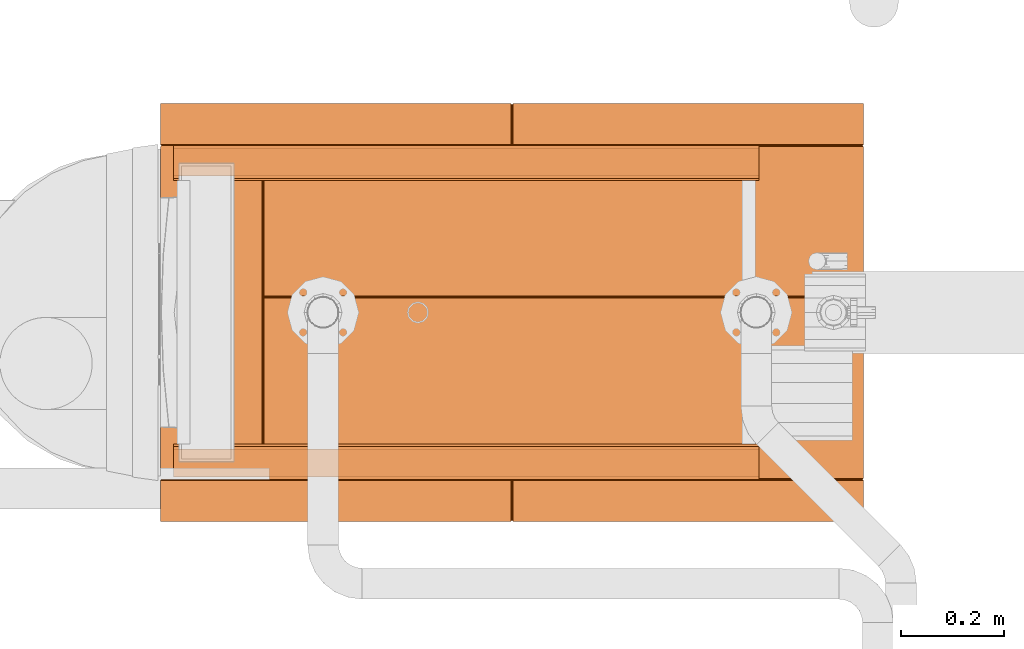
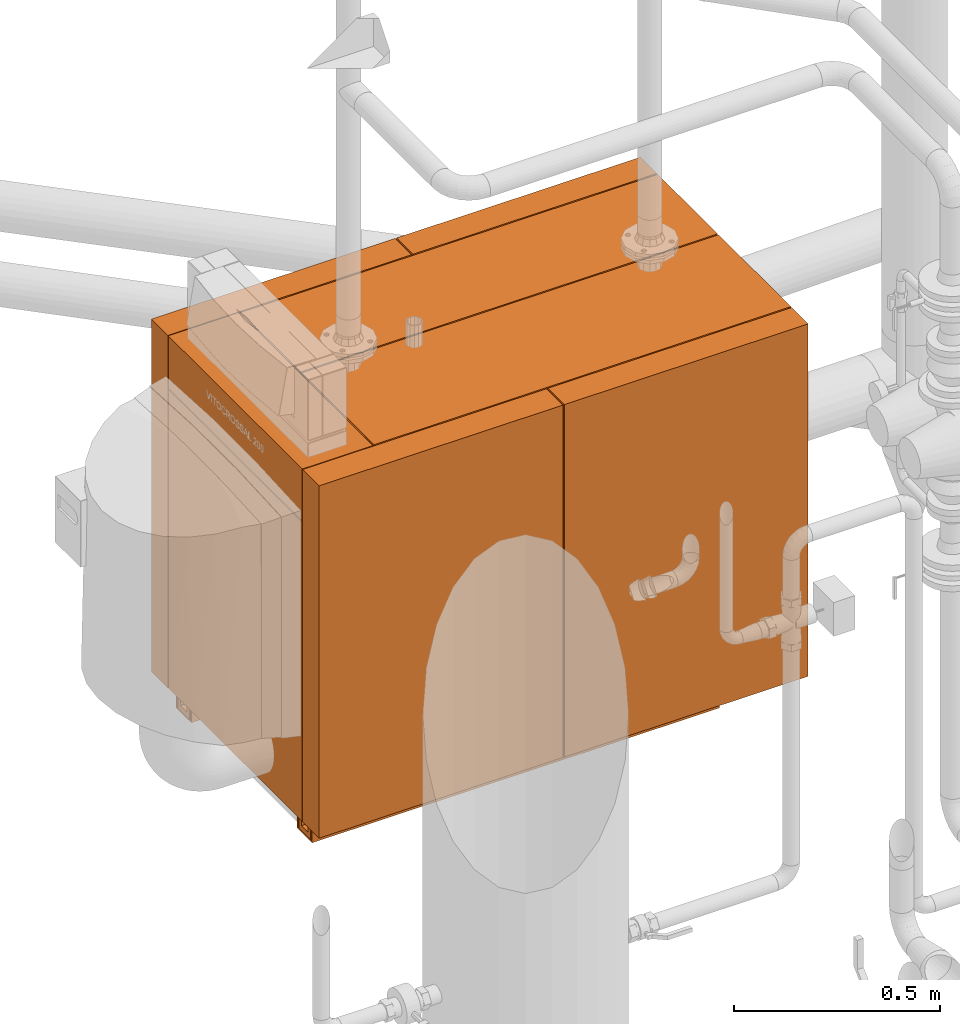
# One storey, part 364 of 374: 11 proxies.
"""IFC2X3 building model written with IfcOpenShell, lengths in metres."""

from ifc_helpers import new_model, si_unit, direction, origin, place, context, subcontext, project, spatial, open_shell, surface_model, source, transform, mapped, element, save


model = new_model("IFC2X3")

# Units and contexts
model_context = context("Model", 3, precision=1e-05, world=origin(), true_north=direction((-0.4480736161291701, 0.8939966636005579)))
body_context = subcontext(model_context, "Body", "Model", "MODEL_VIEW")
ifc_project = project(units=[si_unit("LENGTHUNIT", "METRE"), si_unit("AREAUNIT", "SQUARE_METRE"), si_unit("VOLUMEUNIT", "CUBIC_METRE"), si_unit("PLANEANGLEUNIT", "RADIAN"), si_unit("THERMODYNAMICTEMPERATUREUNIT", "KELVIN"), si_unit("MASSUNIT", "GRAM", prefix="KILO"), si_unit("TIMEUNIT", "SECOND")], contexts=[model_context])

# Site, building, storey
site_placement = place(None, origin())
site = spatial("IfcSite", under=ifc_project, at=site_placement, Name="Site 1", CompositionType="ELEMENT")
building_placement = place(site_placement, origin())
building = spatial("IfcBuilding", under=site, at=building_placement, Name="Undefined", CompositionType="ELEMENT")
storey_placement = place(building_placement, origin())
storey = spatial("IfcBuildingStorey", under=building, at=storey_placement, Name="Rez de chauss\x8ee", CompositionType="ELEMENT", Elevation=0.0)

# Proxies
shared_shape_1 = source(origin(), body_context, "Body", "SurfaceModel", [
    surface_model("IfcFaceBasedSurfaceModel", [(0.01364271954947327, 0.007508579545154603, 0.0), (0.0, 0.0, 0.0), (0.04474933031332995, 0.0, 0.0), (0.05346472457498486, -0.012905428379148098, 0.0), (0.05413505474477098, 0.03888326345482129, 0.0), (0.06883387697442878, 0.050766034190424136, 0.0), (0.01536915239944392, 0.06367146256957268, 0.0), (0.023028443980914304, 0.04639184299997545, 0.0), (0.04474933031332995, 0.0, -1.142000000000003), (0.01364271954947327, 0.007508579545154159, -1.142000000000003), (0.05413505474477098, 0.03888326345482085, -1.142000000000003), (0.0, 0.0, -1.142000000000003), (0.05346472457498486, -0.012905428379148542, -1.142000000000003), (0.01536915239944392, 0.06367146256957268, -1.142000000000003), (0.023028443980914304, 0.04639184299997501, -1.142000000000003), (0.06883387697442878, 0.050766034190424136, -1.142000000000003)], [open_shell([[[0, 1, 2]], [[2, 1, 3]], [[2, 3, 4]], [[4, 3, 5]], [[4, 5, 6]], [[0, 7, 1]], [[1, 7, 6]], [[7, 4, 6]], [[2, 8, 0]], [[0, 8, 9]], [[4, 10, 2]], [[2, 10, 8]], [[1, 11, 3]], [[3, 11, 12]], [[6, 13, 1]], [[1, 13, 11]], [[7, 14, 4]], [[4, 14, 10]], [[0, 9, 7]], [[7, 9, 14]], [[3, 12, 5]], [[5, 12, 15]], [[5, 15, 6]], [[6, 15, 13]], [[13, 15, 10]], [[10, 15, 12]], [[10, 12, 8]], [[8, 12, 11]], [[8, 11, 9]], [[9, 11, 14]], [[10, 14, 13]], [[13, 14, 11]]])]),
])
proxy_1_placement = place(storey_placement, origin())
element("IfcBuildingElementProxy", 1, at=proxy_1_placement, inside=storey, Name="BuildingElementProxy 21", context=body_context, shape_type="MappedRepresentation", body=[
    mapped(shared_shape_1, transform((54.76709950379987, 13.377212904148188, 0.18950012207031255), x_axis=(0.0, -0.9720815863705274, -0.23464311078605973), y_axis=(0.0, 0.23464311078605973, -0.9720815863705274), z_axis=(1.0, 0.0, 0.0))),
])
shared_shape_2 = source(origin(), body_context, "Body", "SurfaceModel", [
    surface_model("IfcFaceBasedSurfaceModel", [(0.0, 0.0, 0.0), (0.055000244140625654, 0.0, 0.0), (0.04349999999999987, 0.015000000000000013, 0.0), (0.055000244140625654, 0.0655001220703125, 0.0), (0.04349999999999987, 0.05499999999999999, 0.0), (0.0, 0.0655001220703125, 0.0), (0.011499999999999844, 0.05499999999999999, 0.0), (0.011499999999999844, 0.015000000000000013, 0.0), (0.04349999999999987, 0.015000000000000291, -1.142000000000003), (0.011499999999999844, 0.015000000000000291, -1.142000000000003), (0.04349999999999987, 0.0550000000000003, -1.142000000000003), (0.0, 0.0, -1.142000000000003), (0.055000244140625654, 2.91433544e-16, -1.142000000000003), (0.0, 0.06550012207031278, -1.142000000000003), (0.011499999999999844, 0.0550000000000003, -1.142000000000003), (0.055000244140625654, 0.06550012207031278, -1.142000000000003)], [open_shell([[[0, 1, 2]], [[2, 1, 3]], [[2, 3, 4]], [[4, 3, 5]], [[4, 5, 6]], [[6, 5, 7]], [[2, 7, 0]], [[0, 7, 5]], [[2, 8, 7]], [[7, 8, 9]], [[4, 10, 2]], [[2, 10, 8]], [[0, 11, 1]], [[1, 11, 12]], [[5, 13, 0]], [[0, 13, 11]], [[7, 9, 6]], [[6, 9, 14]], [[6, 14, 4]], [[4, 14, 10]], [[3, 15, 5]], [[5, 15, 13]], [[1, 12, 3]], [[3, 12, 15]], [[14, 13, 10]], [[10, 13, 15]], [[10, 15, 8]], [[8, 15, 12]], [[8, 12, 11]], [[14, 9, 13]], [[13, 9, 11]], [[9, 8, 11]]])]),
])
proxy_2_placement = place(storey_placement, origin())
element("IfcBuildingElementProxy", 2, at=proxy_2_placement, inside=storey, Name="BuildingElementProxy 23", context=body_context, shape_type="MappedRepresentation", body=[
    mapped(shared_shape_2, transform((54.76709950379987, 12.735212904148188, 0.12400000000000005), x_axis=(0.0, 1.0, 0.0), y_axis=(0.0, 0.0, 1.0), z_axis=(1.0, 0.0, 0.0))),
])
shared_shape_3 = source(origin(), body_context, "Body", "SurfaceModel", [
    surface_model("IfcFaceBasedSurfaceModel", [(0.05986710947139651, 0.003991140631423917, 0.0), (0.0, 0.0, 0.0), (0.06013318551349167, -1.776356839e-15, 0.0), (-0.003725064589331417, -0.004257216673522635, 0.0), (-0.0043237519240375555, 0.06485627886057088, 0.0), (-0.00858096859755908, 0.06858134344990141, 0.0), (0.03558765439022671, 0.06751703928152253, 0.0), (0.035321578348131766, 0.07150817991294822, 0.0), (-0.0043237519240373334, 0.06485627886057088, -1.142000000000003), (0.03558765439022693, 0.06751703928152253, -1.142000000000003), (0.0, 0.0, -1.142000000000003), (0.05986710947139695, 0.003991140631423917, -1.142000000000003), (0.060133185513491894, -1.776356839e-15, -1.142000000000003), (0.03532157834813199, 0.07150817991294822, -1.142000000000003), (-0.008580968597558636, 0.06858134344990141, -1.142000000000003), (-0.003725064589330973, -0.004257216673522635, -1.142000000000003)], [open_shell([[[0, 1, 2]], [[2, 1, 3]], [[1, 4, 3]], [[3, 4, 5]], [[6, 7, 4]], [[4, 7, 5]], [[4, 8, 6]], [[6, 8, 9]], [[1, 10, 4]], [[4, 10, 8]], [[0, 11, 1]], [[1, 11, 10]], [[2, 12, 0]], [[0, 12, 11]], [[6, 9, 7]], [[7, 9, 13]], [[7, 13, 5]], [[5, 13, 14]], [[5, 14, 3]], [[3, 14, 15]], [[3, 15, 2]], [[2, 15, 12]], [[11, 12, 10]], [[10, 12, 15]], [[10, 15, 14]], [[10, 14, 8]], [[8, 14, 13]], [[8, 13, 9]]])]),
])
proxy_3_placement = place(storey_placement, origin())
element("IfcBuildingElementProxy", 3, at=proxy_3_placement, inside=storey, Name="BuildingElementProxy 27", context=body_context, shape_type="MappedRepresentation", body=[
    mapped(shared_shape_3, transform((54.76709950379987, 13.382212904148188, 0.12400000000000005), x_axis=(0.0, 0.06651901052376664, 0.9977851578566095), y_axis=(0.0, -0.9977851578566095, 0.06651901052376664), z_axis=(1.0, 0.0, 0.0))),
])
shared_shape_4 = source(origin(), body_context, "Body", "SurfaceModel", [
    surface_model("IfcFaceBasedSurfaceModel", [(0.0, 0.0, 0.0), (0.08000000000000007, 0.0, 5.82867088e-16), (0.002000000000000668, 0.0028284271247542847, 0.0), (0.08200000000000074, 0.0028284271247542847, 0.0), (0.07999999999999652, -0.7371587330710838, -0.7371587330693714), (0.08199999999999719, -0.7357445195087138, -0.7385729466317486), (-3.552713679e-15, -0.7371587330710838, -0.7371587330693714), (-3.552713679e-15, -0.253851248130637, -1.220466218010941), (0.08199999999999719, -0.25243703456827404, -1.221880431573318), (0.001999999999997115, -0.25243703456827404, -1.221880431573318), (0.0, 0.48330748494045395, -0.4833074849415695), (0.002000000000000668, 0.486135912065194, -0.4833074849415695), (0.08200000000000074, 0.486135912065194, -0.4833074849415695)], [open_shell([[[0, 1, 2]], [[2, 1, 3]], [[4, 5, 1]], [[1, 5, 3]], [[4, 6, 5]], [[5, 6, 7]], [[5, 7, 8]], [[8, 7, 9]], [[1, 0, 4]], [[4, 0, 6]], [[6, 0, 7]], [[7, 0, 10]], [[0, 2, 10]], [[10, 2, 11]], [[3, 12, 2]], [[2, 12, 11]], [[5, 8, 3]], [[3, 8, 12]], [[7, 10, 9]], [[9, 10, 11]], [[8, 9, 12]], [[12, 9, 11]]])]),
])
proxy_4_placement = place(storey_placement, origin())
element("IfcBuildingElementProxy", 4, at=proxy_4_placement, inside=storey, Name="BuildingElementProxy 28", context=body_context, shape_type="MappedRepresentation", body=[
    mapped(shared_shape_4, transform((54.285599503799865, 13.381712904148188, 1.2320000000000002), x_axis=(0.0, 1.0, 0.0), y_axis=(-0.7071067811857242, -1.962615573e-15, 0.7071067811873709), z_axis=(0.707106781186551, 0.0, 0.707106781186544))),
])
shared_shape_5 = source(origin(), body_context, "Body", "SurfaceModel", [
    surface_model("IfcFaceBasedSurfaceModel", [(1.042496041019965, 0.0028284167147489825, 0.0), (0.0, 0.0, 0.0), (1.0425037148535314, -7.105427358e-15, 3.552713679e-15), (-0.00199231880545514, -0.002833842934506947, 3.552713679e-15), (-0.00015347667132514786, 0.05656833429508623, -0.05656854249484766), (-0.002145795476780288, 0.05373449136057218, -0.05656854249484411), (0.0011577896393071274, -0.4267373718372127, -0.5398760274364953), (-0.0008345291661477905, -0.4295712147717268, -0.5398760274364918), (1.0423425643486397, 0.05939675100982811, -0.05656854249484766), (1.0436538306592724, -0.42390895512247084, -0.5398760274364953), (1.043814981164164, -0.48330570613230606, -0.4833074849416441), (1.0436615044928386, -0.42673737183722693, -0.5398760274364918), (-0.0006810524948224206, -0.4861395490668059, -0.4833074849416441)], [open_shell([[[0, 1, 2]], [[2, 1, 3]], [[4, 5, 1]], [[1, 5, 3]], [[4, 6, 5]], [[5, 6, 7]], [[4, 1, 8]], [[8, 1, 0]], [[4, 8, 6]], [[6, 8, 9]], [[0, 2, 8]], [[8, 2, 9]], [[2, 10, 9]], [[9, 10, 11]], [[3, 12, 2]], [[2, 12, 10]], [[5, 7, 3]], [[3, 7, 12]], [[9, 11, 6]], [[6, 11, 7]], [[11, 10, 7]], [[7, 10, 12]]])]),
])
proxy_5_placement = place(storey_placement, origin())
element("IfcBuildingElementProxy", 5, at=proxy_5_placement, inside=storey, Name="BuildingElementProxy 32", context=body_context, shape_type="MappedRepresentation", body=[
    mapped(shared_shape_5, transform((54.285599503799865, 12.650712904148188, 1.2320000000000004), x_axis=(-0.001918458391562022, -0.0019184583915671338, -0.9999963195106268), y_axis=(0.7071041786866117, 0.7071041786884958, -0.0027131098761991), z_axis=(0.7071067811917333, -0.7071067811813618, 0.0))),
])
shared_shape_6 = source(origin(), body_context, "Body", "SurfaceModel", [
    surface_model("IfcFaceBasedSurfaceModel", [(0.6509938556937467, 0.0028284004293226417, 7.105427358e-15), (0.0, 0.0, 0.0), (0.6510061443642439, 7.105427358e-15, 7.105427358e-15), (1.228867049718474e-05, -0.0028284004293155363, 7.105427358e-15), (-9.214852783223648e-05, 0.02120920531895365, -0.02120940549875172), (0.0006144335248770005, -0.14142002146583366, -0.13859292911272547), (-0.003683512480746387, 0.8478092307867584, 0.8053984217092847), (-0.0056573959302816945, 1.3021246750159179, 0.35107868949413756), (-0.002594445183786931, 0.5971459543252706, -0.8771658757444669), (0.00013363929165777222, -0.030758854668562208, -0.249255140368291), (-0.00679409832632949, 1.5637518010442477, 0.08944909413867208), (0.6509017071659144, 0.02403760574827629, -0.02120940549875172), (0.22263574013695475, 1.3031165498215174, 0.35107868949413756), (-0.0036697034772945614, 1.3049617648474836, 0.35107868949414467), (0.4170433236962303, 1.303961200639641, 0.35107868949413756), (0.6433241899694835, 1.30777278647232, 0.35107868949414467), (0.645336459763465, 1.3049530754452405, 0.35107868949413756), (0.6441997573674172, 1.5665802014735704, 0.08944909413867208), (0.6421936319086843, 1.5679857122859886, 0.09086330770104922), (-0.004800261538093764, 1.5651746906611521, 0.09086330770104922), (0.3625541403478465, 1.4387833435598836, 0.21884950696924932), (0.344309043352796, 1.4257628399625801, 0.23179061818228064), (0.31932955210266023, 1.4209174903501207, 0.23652739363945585), (0.2943089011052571, 1.425545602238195, 0.23179061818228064), (0.275951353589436, 1.4384070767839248, 0.21884950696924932), (0.5686203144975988, 1.567666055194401, 0.09086330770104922), (0.5687276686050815, 1.542957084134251, 0.11557251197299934), (0.5617634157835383, 1.5177809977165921, 0.14071810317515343), (0.5417124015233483, 1.4963762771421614, 0.16203550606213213), (0.5116272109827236, 1.4820015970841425, 0.17627933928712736), (0.47608804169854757, 1.4768453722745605, 0.18128110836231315), (0.36908966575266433, 1.4763804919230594, 0.18128110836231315), (0.3691760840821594, 1.4564901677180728, 0.20117162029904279), (0.16209100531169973, 1.475481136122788, 0.18128110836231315), (0.26917579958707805, 1.4560556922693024, 0.20117162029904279), (0.26908938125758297, 1.475946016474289, 0.18128110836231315), (0.12650837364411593, 1.480328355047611, 0.17627933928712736), (0.09629941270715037, 1.4944410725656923, 0.16203550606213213), (0.07606316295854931, 1.5156707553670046, 0.14071810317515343), (0.06888040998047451, 1.5407853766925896, 0.11557251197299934), (0.06877305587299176, 1.5654943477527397, 0.09086330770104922), (0.3695503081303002, 1.3703575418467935, 0.11503818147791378), (0.36946388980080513, 1.39024786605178, 0.09514766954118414), (0.26955002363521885, 1.369923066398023, 0.11503818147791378), (0.2763255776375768, 1.3522744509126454, 0.13271606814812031), (0.2946831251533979, 1.3394129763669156, 0.14565717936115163), (0.31970377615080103, 1.3347848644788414, 0.15039395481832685), (0.3446832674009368, 1.3396302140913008, 0.14565717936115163), (0.3629283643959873, 1.3526507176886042, 0.13271606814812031), (0.2694636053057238, 1.3898133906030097, 0.09514766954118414), (0.16246522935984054, 1.3893485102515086, 0.09514766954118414), (0.06925463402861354, 1.4546527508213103, 0.029439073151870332), (0.07643738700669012, 1.4295381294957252, 0.054584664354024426), (0.09667363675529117, 1.408308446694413, 0.07590206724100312), (0.12688259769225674, 1.3941957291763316, 0.09014590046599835), (0.06914727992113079, 1.4793617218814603, 0.004729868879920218), (0.5691018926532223, 1.4568244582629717, 0.029439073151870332), (0.5689945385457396, 1.4815334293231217, 0.004729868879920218), (0.4764622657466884, 1.3907127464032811, 0.09514766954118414), (0.5120014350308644, 1.3958689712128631, 0.09014590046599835), (0.5420866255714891, 1.410243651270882, 0.07590206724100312), (0.5621376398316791, 1.4316483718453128, 0.054584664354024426), (0.41739159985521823, 1.223800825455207, 0.2709175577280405), (0.22298401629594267, 1.2229561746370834, 0.2709175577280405), (-0.0005883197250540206, 0.5957404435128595, -0.878580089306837), (0.6483994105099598, 0.5999743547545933, -0.8771658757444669), (0.646405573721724, 0.598551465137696, -0.878580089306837), (0.22263574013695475, 1.3031165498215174, 0.35390711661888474), (0.22293834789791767, 1.2334673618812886, 0.42355696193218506), (0.22329276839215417, 1.1518927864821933, 0.34198161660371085), (0.41770035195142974, 1.152737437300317, 0.34198161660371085), (0.23080624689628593, 1.1256217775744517, 0.3682850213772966), (0.2519742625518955, 1.1034145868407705, 0.39058397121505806), (0.28357417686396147, 1.0886520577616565, 0.40548365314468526), (0.32079518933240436, 1.0835816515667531, 0.41071572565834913), (0.3579707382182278, 1.088975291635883, 0.40548365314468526), (0.3894411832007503, 1.1040118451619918, 0.39058397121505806), (0.4104154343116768, 1.1264021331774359, 0.3682850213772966), (0.4170433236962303, 1.303961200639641, 0.35390711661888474), (0.41734593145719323, 1.2343120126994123, 0.42355696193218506), (0.23045182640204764, 1.207196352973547, 0.4498603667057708), (0.2516198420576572, 1.1849891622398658, 0.47215931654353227), (0.2832197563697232, 1.1702266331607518, 0.4870589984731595), (0.32044076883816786, 1.1651562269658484, 0.49229107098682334), (0.3576163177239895, 1.1705498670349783, 0.4870589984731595), (0.389086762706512, 1.185586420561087, 0.47215931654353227), (0.41006101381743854, 1.2079767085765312, 0.4498603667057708), (0.6433364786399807, 1.3049443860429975, 0.35390711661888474), (-0.0036574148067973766, 1.302133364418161, 0.35390711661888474), (0.6452980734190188, 0.8534573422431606, 0.8053984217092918), (0.6473103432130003, 0.850637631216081, 0.8053984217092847), (0.012073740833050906, 0.9037434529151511, 0.7523616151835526), (-0.0016958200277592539, 0.8506463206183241, 0.8053984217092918), (0.012233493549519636, 0.8669742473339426, 0.7891311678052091), (0.1367324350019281, 0.8675151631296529, 0.7891311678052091), (0.5067284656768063, 0.8691227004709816, 0.7891311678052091), (0.13657268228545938, 0.9042843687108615, 0.7523616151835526), (0.5065687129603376, 0.9058919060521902, 0.7523616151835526), (0.631067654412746, 0.9064328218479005, 0.7523616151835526), (0.6312274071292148, 0.869663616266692, 0.7891311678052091), (0.6312453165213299, 0.8655415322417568, 0.7850090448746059), (0.6310855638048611, 0.9023107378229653, 0.7482394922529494), (0.5067463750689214, 0.8650006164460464, 0.7850090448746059), (0.5137249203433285, 0.869980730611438, 0.7800592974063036), (0.6242238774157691, 0.8704608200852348, 0.7800592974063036), (0.513734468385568, 0.867783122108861, 0.7778616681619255), (0.6242334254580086, 0.8682632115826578, 0.7778616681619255), (0.5136081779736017, 0.8968505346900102, 0.7531892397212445), (0.5136177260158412, 0.8946529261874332, 0.7509916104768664), (0.6241071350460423, 0.897330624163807, 0.7531892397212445), (0.6241166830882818, 0.89513301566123, 0.7509916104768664), (0.5065866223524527, 0.901769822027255, 0.7482394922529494), (0.012091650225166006, 0.8996213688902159, 0.7482394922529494), (0.012251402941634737, 0.8628521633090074, 0.7850090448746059), (0.13659059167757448, 0.9001622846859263, 0.7482394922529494), (0.12961204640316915, 0.8951821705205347, 0.7531892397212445), (0.019113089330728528, 0.8947020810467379, 0.7531892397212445), (0.12962159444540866, 0.8929845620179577, 0.7509916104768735), (0.019122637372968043, 0.8925044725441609, 0.7509916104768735), (0.12972878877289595, 0.8683123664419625, 0.7800592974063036), (0.12973833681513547, 0.8661147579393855, 0.7778616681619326), (0.019229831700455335, 0.8678322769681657, 0.7800592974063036), (0.01923937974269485, 0.8656346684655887, 0.7778616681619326), (0.1367503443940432, 0.8633930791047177, 0.7850090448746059), (0.00213362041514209, -0.030750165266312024, -0.25208356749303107), (0.6491275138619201, -0.02793914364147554, -0.25208356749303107), (0.6511274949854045, -0.027930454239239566, -0.249255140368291), (0.6491398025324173, -0.03076754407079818, -0.2492551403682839), (0.002145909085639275, -0.033578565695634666, -0.2492551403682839), (0.6516082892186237, -0.13859162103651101, -0.13859292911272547), (0.649614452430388, -0.1400145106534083, -0.1400071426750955), (0.002620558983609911, -0.1428255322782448, -0.1400071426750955)], [open_shell([[[0, 1, 2]], [[2, 1, 3]], [[1, 4, 3]], [[3, 4, 5]], [[6, 7, 4]], [[4, 7, 8]], [[4, 8, 9]], [[7, 10, 8]], [[9, 5, 4]], [[1, 0, 4]], [[4, 0, 11]], [[7, 12, 13]], [[13, 12, 14]], [[13, 14, 15]], [[15, 14, 16]], [[16, 17, 15]], [[15, 17, 18]], [[7, 13, 10]], [[10, 13, 19]], [[20, 21, 15]], [[15, 21, 22]], [[15, 22, 13]], [[13, 22, 23]], [[13, 23, 24]], [[25, 26, 18]], [[18, 26, 27]], [[18, 27, 15]], [[15, 27, 28]], [[15, 28, 29]], [[29, 30, 15]], [[15, 30, 20]], [[31, 32, 30]], [[30, 32, 20]], [[13, 24, 33]], [[33, 24, 34]], [[33, 34, 35]], [[33, 36, 13]], [[13, 36, 37]], [[13, 37, 38]], [[13, 38, 19]], [[19, 38, 39]], [[19, 39, 40]], [[32, 31, 41]], [[41, 31, 42]], [[34, 24, 43]], [[43, 24, 44]], [[24, 23, 44]], [[44, 23, 45]], [[23, 22, 45]], [[45, 22, 46]], [[22, 21, 46]], [[46, 21, 47]], [[21, 20, 47]], [[47, 20, 48]], [[20, 32, 48]], [[48, 32, 41]], [[35, 34, 49]], [[49, 34, 43]], [[33, 35, 50]], [[50, 35, 49]], [[39, 38, 51]], [[51, 38, 52]], [[38, 37, 52]], [[52, 37, 53]], [[37, 36, 53]], [[53, 36, 54]], [[36, 33, 54]], [[54, 33, 50]], [[40, 39, 55]], [[55, 39, 51]], [[26, 25, 56]], [[56, 25, 57]], [[30, 29, 58]], [[58, 29, 59]], [[29, 28, 59]], [[59, 28, 60]], [[28, 27, 60]], [[60, 27, 61]], [[27, 26, 61]], [[61, 26, 56]], [[31, 30, 42]], [[42, 30, 58]], [[50, 49, 55]], [[55, 49, 42]], [[55, 42, 57]], [[57, 42, 58]], [[57, 58, 56]], [[56, 58, 61]], [[55, 51, 50]], [[50, 51, 54]], [[52, 53, 51]], [[51, 53, 54]], [[42, 49, 41]], [[41, 49, 43]], [[41, 43, 48]], [[48, 43, 47]], [[44, 45, 43]], [[43, 45, 46]], [[43, 46, 47]], [[59, 60, 58]], [[58, 60, 61]], [[14, 12, 62]], [[62, 12, 63]], [[64, 8, 65]], [[65, 8, 57]], [[65, 57, 17]], [[17, 57, 25]], [[17, 25, 18]], [[65, 66, 64]], [[57, 8, 55]], [[55, 8, 10]], [[55, 10, 40]], [[40, 10, 19]], [[67, 68, 12]], [[12, 68, 69]], [[12, 69, 63]], [[63, 69, 62]], [[62, 69, 70]], [[71, 72, 69]], [[69, 72, 73]], [[69, 73, 74]], [[74, 75, 69]], [[69, 75, 76]], [[69, 76, 77]], [[77, 70, 69]], [[78, 14, 79]], [[79, 14, 70]], [[14, 62, 70]], [[68, 80, 69]], [[69, 80, 71]], [[80, 81, 71]], [[71, 81, 72]], [[81, 82, 72]], [[72, 82, 73]], [[82, 83, 73]], [[73, 83, 74]], [[83, 84, 74]], [[74, 84, 75]], [[84, 85, 75]], [[75, 85, 76]], [[85, 86, 76]], [[76, 86, 77]], [[86, 79, 77]], [[77, 79, 70]], [[78, 87, 14]], [[14, 87, 16]], [[67, 12, 88]], [[88, 12, 7]], [[87, 89, 16]], [[16, 89, 90]], [[67, 88, 68]], [[68, 88, 80]], [[80, 88, 91]], [[91, 88, 92]], [[91, 92, 93]], [[93, 92, 94]], [[92, 89, 94]], [[94, 89, 95]], [[94, 95, 96]], [[96, 95, 97]], [[96, 97, 83]], [[83, 97, 84]], [[79, 86, 87]], [[87, 86, 98]], [[87, 98, 89]], [[89, 98, 99]], [[89, 99, 95]], [[87, 78, 79]], [[86, 85, 98]], [[98, 85, 97]], [[85, 84, 97]], [[83, 82, 96]], [[96, 82, 81]], [[96, 81, 91]], [[91, 81, 80]], [[99, 98, 100]], [[100, 98, 101]], [[95, 99, 102]], [[102, 99, 100]], [[103, 104, 105]], [[105, 104, 106]], [[107, 103, 108]], [[108, 103, 105]], [[109, 107, 110]], [[110, 107, 108]], [[104, 109, 106]], [[106, 109, 110]], [[106, 110, 105]], [[105, 110, 108]], [[97, 95, 111]], [[111, 95, 102]], [[98, 97, 101]], [[101, 97, 111]], [[101, 111, 107]], [[107, 111, 102]], [[107, 102, 103]], [[103, 102, 100]], [[103, 100, 104]], [[104, 100, 101]], [[104, 101, 109]], [[109, 101, 107]], [[91, 93, 112]], [[112, 93, 113]], [[96, 91, 114]], [[114, 91, 112]], [[115, 116, 117]], [[117, 116, 118]], [[119, 115, 120]], [[120, 115, 117]], [[116, 121, 118]], [[118, 121, 122]], [[121, 119, 122]], [[122, 119, 120]], [[120, 117, 122]], [[122, 117, 118]], [[94, 96, 123]], [[123, 96, 114]], [[93, 94, 113]], [[113, 94, 123]], [[113, 123, 119]], [[119, 123, 114]], [[119, 114, 115]], [[115, 114, 112]], [[115, 112, 116]], [[116, 112, 113]], [[116, 113, 121]], [[121, 113, 119]], [[88, 7, 92]], [[92, 7, 6]], [[6, 90, 92]], [[92, 90, 89]], [[64, 124, 8]], [[8, 124, 9]], [[125, 124, 66]], [[66, 124, 64]], [[126, 125, 65]], [[65, 125, 66]], [[4, 11, 6]], [[6, 11, 90]], [[127, 128, 126]], [[126, 128, 9]], [[124, 125, 9]], [[9, 125, 126]], [[0, 2, 11]], [[11, 2, 129]], [[11, 129, 126]], [[126, 65, 11]], [[11, 65, 16]], [[11, 16, 90]], [[65, 17, 16]], [[129, 2, 130]], [[130, 2, 3]], [[130, 3, 131]], [[131, 3, 5]], [[130, 131, 127]], [[127, 131, 128]], [[126, 129, 127]], [[127, 129, 130]], [[131, 5, 128]], [[128, 5, 9]]])]),
])
proxy_6_placement = place(storey_placement, origin())
element("IfcBuildingElementProxy", 6, at=proxy_6_placement, inside=storey, Name="BuildingElementProxy 34", context=body_context, shape_type="MappedRepresentation", body=[
    mapped(shared_shape_6, transform((53.80009950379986, 13.381712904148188, 1.2320000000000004), x_axis=(-0.003072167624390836, -0.9999905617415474, 0.003072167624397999), y_axis=(0.7071001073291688, -0.0043447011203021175, -0.7071001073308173), z_axis=(0.707106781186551, 0.0, 0.707106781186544))),
])
shared_shape_7 = source(origin(), body_context, "Body", "SurfaceModel", [
    surface_model("IfcFaceBasedSurfaceModel", [(0.08000000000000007, 0.0, 5.82867088e-16), (0.0779999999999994, 0.0028284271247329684, 0.0), (0.0, 0.0, 0.0), (-0.002000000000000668, 0.0028284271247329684, 0.0), (-3.552713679e-15, -0.7371587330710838, -0.7371587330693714), (-0.001999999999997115, -0.7357445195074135, -0.738572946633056), (0.07999999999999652, -0.7371587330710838, -0.7371587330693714), (0.08000000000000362, -0.25385124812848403, -1.2204662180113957), (-0.001999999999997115, -0.2524370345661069, -1.2218804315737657), (0.07800000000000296, -0.2524370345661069, -1.2218804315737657), (-0.002000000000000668, 0.48613591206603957, -0.48330748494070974), (0.0779999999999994, 0.48613591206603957, -0.48330748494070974), (0.08000000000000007, 0.4833074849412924, -0.48330748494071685)], [open_shell([[[0, 1, 2]], [[2, 1, 3]], [[4, 2, 5]], [[5, 2, 3]], [[4, 5, 6]], [[6, 5, 7]], [[5, 8, 7]], [[7, 8, 9]], [[3, 10, 5]], [[5, 10, 8]], [[1, 11, 3]], [[3, 11, 10]], [[4, 6, 2]], [[2, 6, 0]], [[7, 9, 12]], [[12, 9, 11]], [[9, 8, 11]], [[11, 8, 10]], [[0, 6, 12]], [[12, 6, 7]], [[0, 12, 1]], [[1, 12, 11]]])]),
])
proxy_7_placement = place(storey_placement, origin())
element("IfcBuildingElementProxy", 7, at=proxy_7_placement, inside=storey, Name="BuildingElementProxy 35", context=body_context, shape_type="MappedRepresentation", body=[
    mapped(shared_shape_7, transform((54.285599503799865, 13.461712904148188, 1.2320000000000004), x_axis=(0.0, -1.0, 0.0), y_axis=(0.707106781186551, 0.0, 0.707106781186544), z_axis=(-0.7071067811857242, -1.962615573e-15, 0.7071067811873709))),
])
shared_shape_8 = source(origin(), body_context, "Body", "SurfaceModel", [
    surface_model("IfcFaceBasedSurfaceModel", [(0.00026607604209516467, 0.003991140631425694, 0.0), (0.0, 0.0, 0.0), (0.06013318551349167, -1.776356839e-15, 0.0), (0.06385825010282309, -0.004257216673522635, 0.0), (0.06871415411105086, 0.06858134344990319, 0.0), (0.06445693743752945, 0.06485627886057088, 0.0), (0.024811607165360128, 0.07150817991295, 0.0), (0.024545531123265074, 0.06751703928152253, 0.0), (0.06871415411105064, 0.06858134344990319, -1.142000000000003), (0.024811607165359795, 0.07150817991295, -1.142000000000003), (0.06385825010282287, -0.004257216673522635, -1.142000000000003), (0.0, 0.0, -1.142000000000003), (0.0002660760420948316, 0.003991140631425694, -1.142000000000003), (0.060133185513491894, -1.776356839e-15, -1.142000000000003), (0.06445693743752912, 0.06485627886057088, -1.142000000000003), (0.02454553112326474, 0.06751703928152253, -1.142000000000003)], [open_shell([[[0, 1, 2]], [[2, 1, 3]], [[2, 3, 4]], [[2, 4, 5]], [[5, 4, 6]], [[5, 6, 7]], [[4, 8, 6]], [[6, 8, 9]], [[3, 10, 4]], [[4, 10, 8]], [[1, 11, 3]], [[3, 11, 10]], [[0, 12, 1]], [[1, 12, 11]], [[2, 13, 0]], [[0, 13, 12]], [[5, 14, 2]], [[2, 14, 13]], [[7, 15, 5]], [[5, 15, 14]], [[6, 9, 7]], [[7, 9, 15]], [[12, 13, 11]], [[11, 13, 10]], [[13, 14, 10]], [[10, 14, 8]], [[15, 9, 14]], [[14, 9, 8]]])]),
])
proxy_8_placement = place(storey_placement, origin())
element("IfcBuildingElementProxy", 8, at=proxy_8_placement, inside=storey, Name="BuildingElementProxy 40", context=body_context, shape_type="MappedRepresentation", body=[
    mapped(shared_shape_8, transform((54.76709950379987, 12.726212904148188, 0.18400000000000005), x_axis=(0.0, 0.06651901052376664, -0.9977851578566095), y_axis=(0.0, 0.9977851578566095, 0.06651901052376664), z_axis=(1.0, 0.0, 0.0))),
])
shared_shape_9 = source(origin(), body_context, "Body", "SurfaceModel", [
    surface_model("IfcFaceBasedSurfaceModel", [(7.673833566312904e-06, 0.002828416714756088, 0.0), (0.0, 0.0, 0.0), (1.0425037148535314, -7.105427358e-15, 3.552713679e-15), (1.0444960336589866, -0.002833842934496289, 0.0), (1.0426571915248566, 0.0565683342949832, -0.05656854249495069), (1.0446495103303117, 0.05373449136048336, -0.056568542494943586), (1.0413459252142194, -0.4267373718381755, -0.5398760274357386), (1.0433382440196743, -0.42957121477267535, -0.5398760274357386), (1.043184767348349, -0.486139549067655, -0.483307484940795), (-0.0013112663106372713, -0.4833057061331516, -0.483307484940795), (0.0001611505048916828, 0.05939675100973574, -0.05656854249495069), (-0.0011577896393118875, -0.42673737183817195, -0.5398760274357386), (-0.0011501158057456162, -0.42390895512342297, -0.5398760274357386)], [open_shell([[[0, 1, 2]], [[2, 1, 3]], [[4, 2, 5]], [[5, 2, 3]], [[4, 5, 6]], [[6, 5, 7]], [[3, 8, 5]], [[5, 8, 7]], [[1, 9, 3]], [[3, 9, 8]], [[2, 4, 0]], [[0, 4, 10]], [[9, 11, 8]], [[8, 11, 7]], [[12, 6, 11]], [[11, 6, 7]], [[10, 4, 12]], [[12, 4, 6]], [[0, 10, 1]], [[1, 10, 12]], [[1, 12, 9]], [[9, 12, 11]]])]),
])
proxy_9_placement = place(storey_placement, origin())
element("IfcBuildingElementProxy", 9, at=proxy_9_placement, inside=storey, Name="BuildingElementProxy 43", context=body_context, shape_type="MappedRepresentation", body=[
    mapped(shared_shape_9, transform((54.28759950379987, 12.648712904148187, 0.18950012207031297), x_axis=(-0.0019184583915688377, 0.0019184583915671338, 0.9999963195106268), y_axis=(-0.7071041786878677, 0.7071041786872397, -0.0027131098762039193), z_axis=(-0.7071067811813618, -0.7071067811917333, 1.4287841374e-14))),
])
shared_shape_10 = source(origin(), body_context, "Body", "SurfaceModel", [
    surface_model("IfcFaceBasedSurfaceModel", [(1.169000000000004, 0.0, 0.0), (1.1670000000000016, 0.0028284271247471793, 0.0), (0.0, 0.0, 0.0), (-0.002000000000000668, 0.0028284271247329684, 0.0), (1.169000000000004, -0.20601556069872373, -0.20601556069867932), (0.0, -0.20601556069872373, -0.20601556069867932), (-0.0020000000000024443, -0.20601556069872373, -0.2088439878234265), (1.1670000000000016, -0.20601556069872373, -0.2088439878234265), (1.1670000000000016, -0.1848061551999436, -0.23005339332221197), (1.169000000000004, -0.1848061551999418, -0.2272249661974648), (-0.0020000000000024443, -0.1848061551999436, -0.23005339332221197), (1.169000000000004, 0.02120940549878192, -0.021209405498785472), (1.1670000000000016, 0.024037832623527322, -0.021209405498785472), (-0.0020000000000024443, 0.024037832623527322, -0.021209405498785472)], [open_shell([[[0, 1, 2]], [[2, 1, 3]], [[0, 2, 4]], [[4, 2, 5]], [[3, 6, 2]], [[2, 6, 5]], [[6, 7, 5]], [[5, 7, 4]], [[8, 9, 7]], [[7, 9, 4]], [[7, 6, 8]], [[8, 6, 10]], [[9, 11, 4]], [[4, 11, 0]], [[8, 12, 9]], [[9, 12, 11]], [[6, 3, 10]], [[10, 3, 13]], [[1, 12, 3]], [[3, 12, 13]], [[0, 11, 1]], [[1, 11, 12]], [[10, 13, 8]], [[8, 13, 12]]])]),
])
proxy_10_placement = place(storey_placement, origin())
element("IfcBuildingElementProxy", 10, at=proxy_10_placement, inside=storey, Name="BuildingElementProxy 45", context=body_context, shape_type="MappedRepresentation", body=[
    mapped(shared_shape_10, transform((53.802099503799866, 13.379712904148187, 1.2340000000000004), x_axis=(1.0, 0.0, 0.0), y_axis=(-5.23364153e-16, 0.7071067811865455, -0.7071067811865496), z_axis=(0.0, 0.7071067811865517, 0.7071067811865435))),
])
shared_shape_11 = source(origin(), body_context, "Body", "SurfaceModel", [
    surface_model("IfcFaceBasedSurfaceModel", [(0.0, 0.0, 0.0), (1.169000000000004, 0.0, 0.0), (0.002000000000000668, 0.0028284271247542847, 0.0), (1.1710000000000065, 0.002828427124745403, -1.776356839e-15), (0.0, -0.02120940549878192, -0.021209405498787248), (1.169000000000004, -0.02120940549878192, -0.021209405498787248), (0.0020000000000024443, 0.2514825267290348, -0.2486540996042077), (0.0, 0.2514825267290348, -0.2514825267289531), (1.169000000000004, 0.23027312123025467, -0.2726919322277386), (1.169000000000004, 0.2514825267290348, -0.2514825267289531), (1.1710000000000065, 0.23027312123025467, -0.26986350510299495), (1.1710000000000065, 0.2514825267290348, -0.2486540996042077), (0.0, 0.23027312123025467, -0.2726919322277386), (1.1710000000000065, -0.01838097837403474, -0.021209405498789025)], [open_shell([[[0, 1, 2]], [[2, 1, 3]], [[0, 4, 1]], [[1, 4, 5]], [[2, 6, 0]], [[0, 6, 7]], [[8, 9, 10]], [[10, 9, 11]], [[7, 6, 9]], [[9, 6, 11]], [[7, 9, 12]], [[12, 9, 8]], [[12, 4, 7]], [[7, 4, 0]], [[8, 5, 12]], [[12, 5, 4]], [[10, 13, 8]], [[8, 13, 5]], [[2, 3, 6]], [[6, 3, 11]], [[3, 1, 13]], [[13, 1, 5]], [[11, 3, 10]], [[10, 3, 13]]])]),
])
proxy_11_placement = place(storey_placement, origin())
element("IfcBuildingElementProxy", 11, at=proxy_11_placement, inside=storey, Name="BuildingElementProxy 46", context=body_context, shape_type="MappedRepresentation", body=[
    mapped(shared_shape_11, transform((53.80009950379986, 12.730712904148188, 1.2320000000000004), x_axis=(1.0, 0.0, 0.0), y_axis=(0.0, 0.7071067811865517, 0.7071067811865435), z_axis=(-8.6595606e-17, -0.7071067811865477, 0.7071067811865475))),
])

save(model, "model.ifc")
